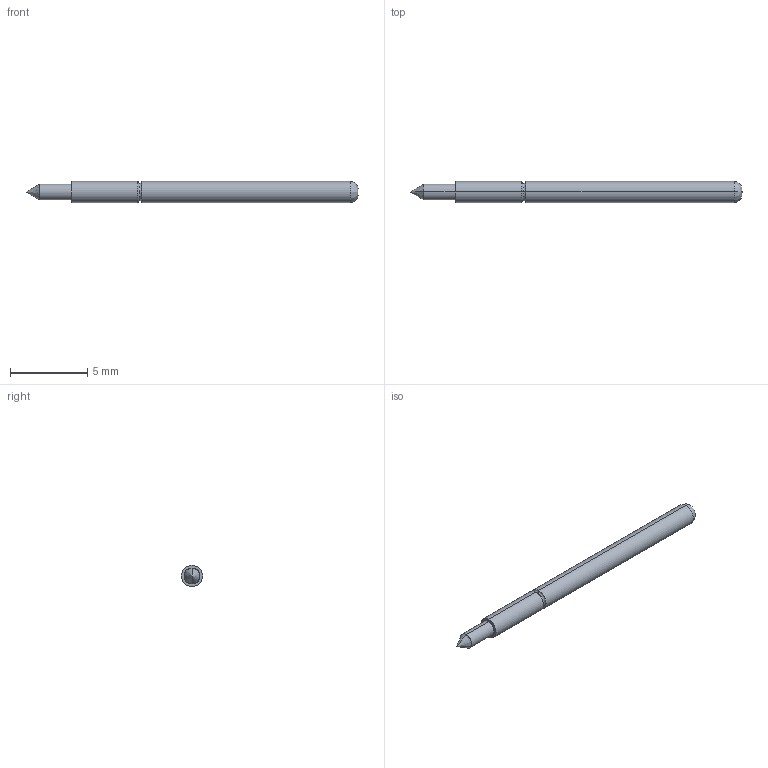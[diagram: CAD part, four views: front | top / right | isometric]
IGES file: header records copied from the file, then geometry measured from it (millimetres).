
Start section: SolidWorks IGES file using analytic representation for surfaces
Global section: file name: O:\PYLON\IGES FILES\P2664\P2664G-1C1S.IGS; native system: SolidWorks 2015; preprocessor: SolidWorks 2015; author: kgolden; date: 171019.131751; units: inch
Bounding box: 21.46 x 1.37 x 1.37 mm (x, y, z)
Surface area: 93.4 mm2 (no closed solid volume)
Topology: 0 solids, 0 shells, 18 faces, 112 edges, 110 vertices
Faces by surface type: revolution 10, bspline 8
